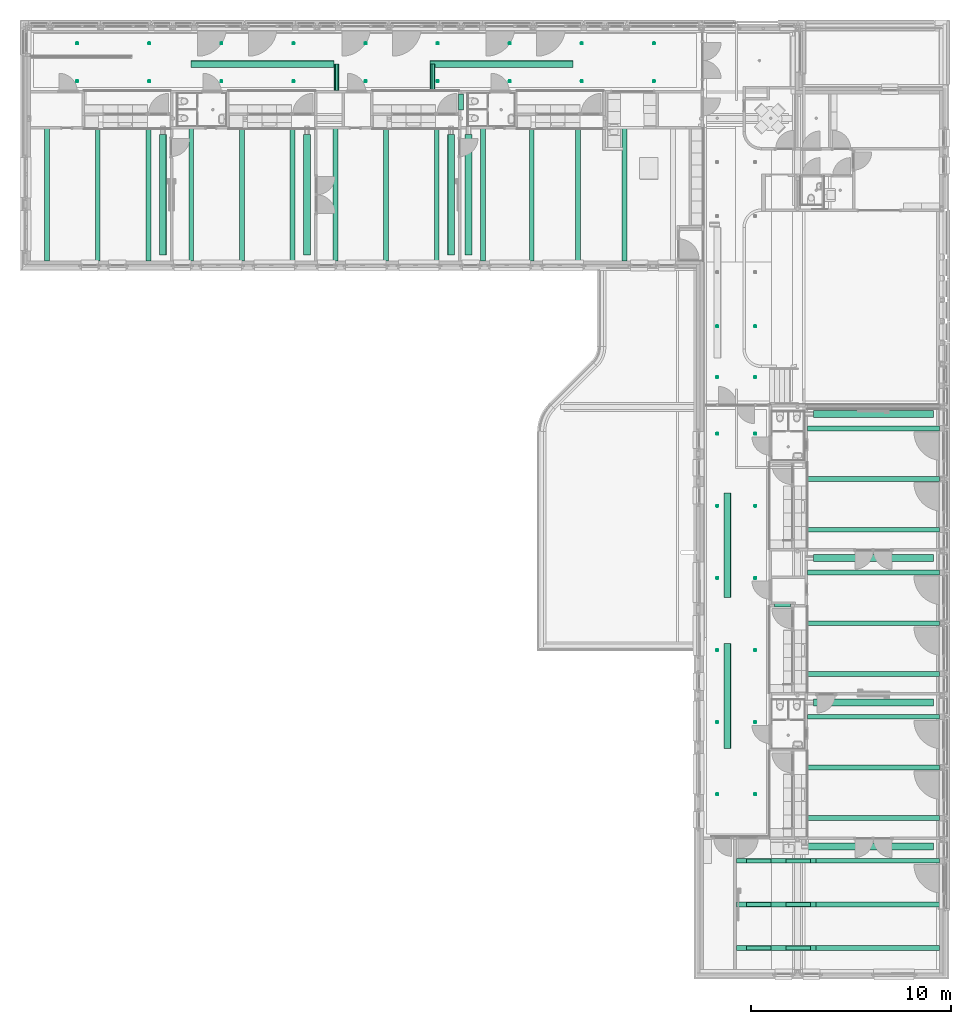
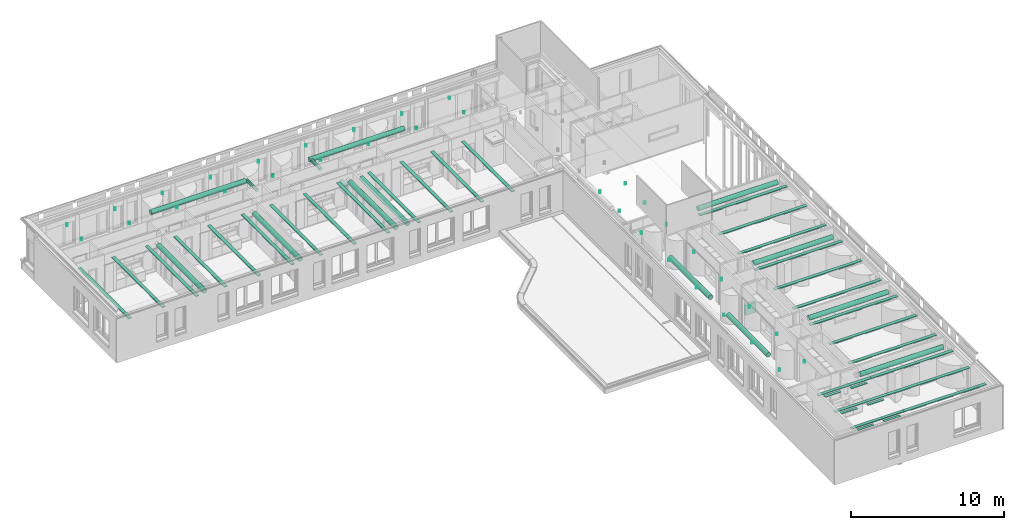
# One storey, part 76 of 128: 53 flow terminals, 14 distribution control elements.
"""IFC2X3 building model written with IfcOpenShell, lengths in millimetres."""

from ifc_helpers import new_model, entity, si_unit, converted_unit, derived_unit, direction, frame, frame_2d, origin, origin_2d_with_axis, place, context, subcontext, project, spatial, rectangle, circle, extrude, source, transform, mapped, material, type_object, type_shapes, element, save


model = new_model("IFC2X3")

# Units and contexts
model_context = context("Model", 3, precision=0.01, world=origin(), true_north=direction((6.123031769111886e-17, 1.0)))
body_context = subcontext(model_context, "Body", "Model", "MODEL_VIEW")
ifc_project = project(units=[si_unit("LENGTHUNIT", "METRE", prefix="MILLI"), si_unit("AREAUNIT", "SQUARE_METRE"), si_unit("VOLUMEUNIT", "CUBIC_METRE"), converted_unit("PLANEANGLEUNIT", "DEGREE", entity("IfcRatioMeasure", 0.017453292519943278), si_unit("PLANEANGLEUNIT", "RADIAN"), dimensions=[0, 0, 0, 0, 0, 0, 0]), si_unit("MASSUNIT", "GRAM", prefix="KILO"), derived_unit("MASSDENSITYUNIT", [(si_unit("MASSUNIT", "GRAM", prefix="KILO"), 1), (si_unit("LENGTHUNIT", "METRE"), -3)]), derived_unit("IONCONCENTRATIONUNIT", [(si_unit("MASSUNIT", "GRAM", prefix="KILO"), 1), (si_unit("LENGTHUNIT", "METRE"), -3)]), derived_unit("MOMENTOFINERTIAUNIT", [(si_unit("LENGTHUNIT", "METRE"), 4)]), si_unit("TIMEUNIT", "SECOND"), si_unit("FREQUENCYUNIT", "HERTZ"), si_unit("THERMODYNAMICTEMPERATUREUNIT", "DEGREE_CELSIUS"), derived_unit("THERMALTRANSMITTANCEUNIT", [(si_unit("MASSUNIT", "GRAM", prefix="KILO"), 1), (si_unit("THERMODYNAMICTEMPERATUREUNIT", "KELVIN"), -1), (si_unit("TIMEUNIT", "SECOND"), -3)]), derived_unit("THERMALCONDUCTANCEUNIT", [(si_unit("MASSUNIT", "GRAM", prefix="KILO"), 1), (si_unit("THERMODYNAMICTEMPERATUREUNIT", "KELVIN"), -1), (si_unit("TIMEUNIT", "SECOND"), -3), (si_unit("LENGTHUNIT", "METRE"), 1)]), derived_unit("VOLUMETRICFLOWRATEUNIT", [(si_unit("LENGTHUNIT", "METRE"), 3), (si_unit("TIMEUNIT", "SECOND"), -1)]), derived_unit("MASSFLOWRATEUNIT", [(si_unit("MASSUNIT", "GRAM", prefix="KILO"), 1), (si_unit("TIMEUNIT", "SECOND"), -1)]), derived_unit("ROTATIONALFREQUENCYUNIT", [(si_unit("TIMEUNIT", "SECOND"), -1)]), si_unit("ELECTRICCURRENTUNIT", "AMPERE"), si_unit("ELECTRICVOLTAGEUNIT", "VOLT"), si_unit("POWERUNIT", "WATT"), si_unit("FORCEUNIT", "NEWTON", prefix="KILO"), si_unit("ILLUMINANCEUNIT", "LUX"), si_unit("LUMINOUSFLUXUNIT", "LUMEN"), si_unit("LUMINOUSINTENSITYUNIT", "CANDELA"), derived_unit("USERDEFINED", [(si_unit("MASSUNIT", "GRAM", prefix="KILO"), -1), (si_unit("LENGTHUNIT", "METRE"), -2), (si_unit("TIMEUNIT", "SECOND"), 3), (si_unit("LUMINOUSFLUXUNIT", "LUMEN"), 1)]), derived_unit("USERDEFINED", [(si_unit("MASSUNIT", "GRAM", prefix="KILO"), 1), (si_unit("TIMEUNIT", "SECOND"), -3), (si_unit("LENGTHUNIT", "METRE"), 3), (si_unit("ELECTRICCURRENTUNIT", "AMPERE"), -2)]), derived_unit("SOUNDPOWERUNIT", [(si_unit("MASSUNIT", "GRAM", prefix="KILO"), 1), (si_unit("TIMEUNIT", "SECOND"), -3), (si_unit("LENGTHUNIT", "METRE"), 2)]), derived_unit("SOUNDPRESSUREUNIT", [(si_unit("MASSUNIT", "GRAM", prefix="KILO"), 1), (si_unit("LENGTHUNIT", "METRE"), -1), (si_unit("TIMEUNIT", "SECOND"), -2)]), derived_unit("LINEARVELOCITYUNIT", [(si_unit("LENGTHUNIT", "METRE"), 1), (si_unit("TIMEUNIT", "SECOND"), -1)]), si_unit("PRESSUREUNIT", "PASCAL"), derived_unit("USERDEFINED", [(si_unit("MASSUNIT", "GRAM", prefix="KILO"), 1), (si_unit("LENGTHUNIT", "METRE"), -2), (si_unit("TIMEUNIT", "SECOND"), -2)]), derived_unit("LINEARFORCEUNIT", [(si_unit("MASSUNIT", "GRAM", prefix="KILO"), 1), (si_unit("TIMEUNIT", "SECOND"), -2)]), derived_unit("PLANARFORCEUNIT", [(si_unit("MASSUNIT", "GRAM", prefix="KILO"), 1), (si_unit("LENGTHUNIT", "METRE"), -1), (si_unit("TIMEUNIT", "SECOND"), -2)]), derived_unit("SPECIFICHEATCAPACITYUNIT", [(si_unit("THERMODYNAMICTEMPERATUREUNIT", "KELVIN"), -1), (si_unit("LENGTHUNIT", "METRE"), 2), (si_unit("TIMEUNIT", "SECOND"), -2)]), derived_unit("HEATINGVALUEUNIT", [(si_unit("LENGTHUNIT", "METRE"), 2), (si_unit("TIMEUNIT", "SECOND"), -2)]), derived_unit("VAPORPERMEABILITYUNIT", [(si_unit("LENGTHUNIT", "METRE"), -1), (si_unit("TIMEUNIT", "SECOND"), 1)]), derived_unit("DYNAMICVISCOSITYUNIT", [(si_unit("MASSUNIT", "GRAM", prefix="KILO"), 1), (si_unit("TIMEUNIT", "SECOND"), -1), (si_unit("LENGTHUNIT", "METRE"), -1)]), derived_unit("THERMALEXPANSIONCOEFFICIENTUNIT", [(si_unit("THERMODYNAMICTEMPERATUREUNIT", "KELVIN"), -1)]), derived_unit("MODULUSOFELASTICITYUNIT", [(si_unit("MASSUNIT", "GRAM", prefix="KILO"), 1), (si_unit("LENGTHUNIT", "METRE"), -1), (si_unit("TIMEUNIT", "SECOND"), -2)]), derived_unit("ISOTHERMALMOISTURECAPACITYUNIT", [(si_unit("LENGTHUNIT", "METRE"), 3), (si_unit("MASSUNIT", "GRAM", prefix="KILO"), -1)]), derived_unit("MOISTUREDIFFUSIVITYUNIT", [(si_unit("TIMEUNIT", "SECOND"), -1), (si_unit("LENGTHUNIT", "METRE"), 2)])], contexts=[model_context])

# Site, building, storey
site_placement = place(None, frame((0.0, 300.0, 0.0)))
site = spatial("IfcSite", under=ifc_project, at=site_placement, Name="<Kadastrale nummers>", CompositionType="ELEMENT")
building_placement = place(site_placement, origin())
building = spatial("IfcBuilding", under=site, at=building_placement, CompositionType="ELEMENT")
storey_placement = place(building_placement, frame((0.0, 0.0, 3560.0000331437)))
storey = spatial("IfcBuildingStorey", under=building, at=storey_placement, Name="01 eerste verdieping", CompositionType="ELEMENT", Elevation=3560.0000331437)

# Distribution control elements
ifc_material_1 = material(Name="<Unnamed>")
controller_type_1 = type_object("IfcControllerType", Name="57_luchtbehandelings buis:Ø 350 op 2945", PredefinedType="NOTDEFINED", material=ifc_material_1)
shared_shape_1 = source(origin(), body_context, "Body", "SweptSolid", [
    extrude(circle(Radius=175.0, at=origin_2d_with_axis()), frame((0.0, 0.0, 2800.0), z_axis=(1.0, 0.0, 0.0), x_axis=(0.0, 1.0, 0.0)), (0.0, 0.0, 1.0), 5997.5000000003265),
])
type_shapes(controller_type_1, [shared_shape_1])
for number, where, z_axis, x_axis in (
    (1, (9705.0, 38500.0, 90.00000187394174), (0.0, 0.0, 1.0), (0.0, 1.0, 0.0)),
    (2, (16905.0, 38500.0, 90.00000187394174), (0.0, 0.0, 1.0), (0.0, 1.0, 0.0)),
    (3, (24105.0, 38500.0, 90.00000187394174), (0.0, 0.0, 1.0), (0.0, 1.0, 0.0)),
    (4, (48200.0, 30550.0, 90.0000018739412), (0.0, 0.0, 1.0), (-1.0, 0.0, 0.0)),
    (5, (48200.0, 23349.998623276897, 90.0000018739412), (0.0, 0.0, 1.0), (-1.0, 0.0, 0.0)),
    (6, (48200.0, 16149.998623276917, 90.0000018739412), (0.0, 0.0, 1.0), (-1.0, 0.0, 0.0)),
):
    element("IfcDistributionControlElement", number, at=place(storey_placement, frame(where, z_axis=z_axis, x_axis=x_axis)), inside=storey, type_object=controller_type_1, material=ifc_material_1, Name="57_luchtbehandelings buis:Ø 350 op 2945", ObjectType="57_luchtbehandelings buis:Ø 350 op 2945", context=body_context, shape_type="MappedRepresentation", body=[
        mapped(shared_shape_1, transform((0.0, 0.0, 0.0), scale=1.0)),
    ])
controller_type_2 = type_object("IfcControllerType", Name="57_luchtbehandelings buis:Ø 350 op 2945", PredefinedType="NOTDEFINED", material=ifc_material_1)
shared_shape_2 = source(origin(), body_context, "Body", "SweptSolid", [
    extrude(circle(Radius=175.0, at=origin_2d_with_axis()), frame((0.0, 0.0, 2800.0), z_axis=(1.0, 0.0, 0.0), x_axis=(0.0, 1.0, 0.0)), (0.0, 0.0, 1.0), 6268.780356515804),
])
type_shapes(controller_type_2, [shared_shape_2])
distribution_control_element_1_placement = place(storey_placement, frame((48200.0, 8949.998623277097, 90.0000018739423), z_axis=(0.0, 0.0, 1.0), x_axis=(-1.0, 0.0, 0.0)))
element("IfcDistributionControlElement", 7, at=distribution_control_element_1_placement, inside=storey, type_object=controller_type_2, material=ifc_material_1, Name="57_luchtbehandelings buis:Ø 350 op 2945", ObjectType="57_luchtbehandelings buis:Ø 350 op 2945", context=body_context, shape_type="MappedRepresentation", body=[
    mapped(shared_shape_2, transform((0.0, 0.0, 0.0), scale=1.0)),
])

# Flow terminals
light_fixture_type_1 = type_object("IfcLightFixtureType", Name="63_DAT_TL Bak met kabelgoot:63_DAT_TL Bak met kabelgoot", PredefinedType="NOTDEFINED", material=ifc_material_1)
shared_shape_3 = source(origin(), body_context, "Body", "SweptSolid", [
    extrude(rectangle(XDim=1220.000000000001, YDim=199.9999999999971, at=origin_2d_with_axis()), frame((3298.750000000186, 0.0, 2750.0), z_axis=(0.0, 0.0, 1.0), x_axis=(-1.0, 0.0, 0.0)), (0.0, 0.0, 1.0), 49.99999999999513),
    extrude(rectangle(XDim=1220.000000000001, YDim=199.9999999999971, at=frame_2d((-5.684341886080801e-13, 0.0), x_axis=(1.0, 0.0))), frame((5487.50000000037, 0.0, 2750.0), z_axis=(0.0, 0.0, 1.0), x_axis=(-1.0, 0.0, 0.0)), (0.0, 0.0, 1.0), 49.99999999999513),
    extrude(rectangle(XDim=1220.0000000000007, YDim=199.9999999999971, at=frame_2d((1.1368683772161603e-13, 0.0), x_axis=(1.0, 0.0))), frame((1110.0, 0.0, 2750.0), z_axis=(0.0, 0.0, 1.0), x_axis=(-1.0, 0.0, 0.0)), (0.0, 0.0, 1.0), 49.99999999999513),
    extrude(rectangle(XDim=6597.500000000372, YDim=239.99999999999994, at=origin_2d_with_axis()), frame((3298.750000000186, 0.0, 2800.0), z_axis=(0.0, 0.0, 1.0), x_axis=(-1.0, 0.0, 0.0)), (0.0, 0.0, 1.0), 50.3008697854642),
])
type_shapes(light_fixture_type_1, [shared_shape_3])
for number, where, z_axis, x_axis, name in (
    (8, (6455.001376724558, 44797.50000000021, 90.00000187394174), (0.0, 0.0, 1.0), (0.0, -1.0, 0.0), "63_DAT_TL Bak met kabelgoot:63_DAT_TL Bak met kabelgoot"),
    (9, (3925.0013767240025, 44797.50000000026, 90.00000187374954), (0.0, 0.0, 1.0), (0.0, -1.0, 0.0), "63_DAT_TL Bak met kabelgoot:63_DAT_TL Bak met kabelgoot"),
    (10, (13655.00137672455, 44797.500000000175, 90.00000187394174), (0.0, 0.0, 1.0), (0.0, -1.0, 0.0), "63_DAT_TL Bak met kabelgoot:63_DAT_TL Bak met kabelgoot"),
    (11, (11125.001376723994, 44797.50000000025, 90.00000187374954), (0.0, 0.0, 1.0), (0.0, -1.0, 0.0), "63_DAT_TL Bak met kabelgoot:63_DAT_TL Bak met kabelgoot"),
    (12, (20855.00137672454, 44797.500000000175, 90.00000187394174), (0.0, 0.0, 1.0), (0.0, -1.0, 0.0), "63_DAT_TL Bak met kabelgoot:63_DAT_TL Bak met kabelgoot"),
    (13, (18325.001376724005, 44797.50000000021, 90.00000187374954), (0.0, 0.0, 1.0), (0.0, -1.0, 0.0), "63_DAT_TL Bak met kabelgoot:63_DAT_TL Bak met kabelgoot"),
    (14, (32757.49862327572, 44797.499999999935, 90.00000187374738), (0.0, 0.0, 1.0), (0.0, -1.0, 0.0), "63_DAT_TL Bak met kabelgoot:63_DAT_TL Bak met kabelgoot"),
):
    element("IfcFlowTerminal", number, at=place(storey_placement, frame(where, z_axis=z_axis, x_axis=x_axis)), inside=storey, type_object=light_fixture_type_1, material=ifc_material_1, Name=name, ObjectType="63_DAT_TL Bak met kabelgoot:63_DAT_TL Bak met kabelgoot", context=body_context, shape_type="MappedRepresentation", body=[
        mapped(shared_shape_3, transform((0.0, 0.0, 0.0), scale=1.0)),
    ])
for number, where, name in (
    (15, (41902.49999999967, 27300.00137672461, 90.00000187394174), "63_DAT_TL Bak met kabelgoot:63_DAT_TL Bak met kabelgoot"),
    (16, (41902.49999999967, 24770.00137672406, 90.00000187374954), "63_DAT_TL Bak met kabelgoot:63_DAT_TL Bak met kabelgoot"),
    (17, (41902.499999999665, 20100.0, 90.00000187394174), "63_DAT_TL Bak met kabelgoot:63_DAT_TL Bak met kabelgoot"),
    (18, (41902.499999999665, 17570.0, 90.00000187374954), "63_DAT_TL Bak met kabelgoot:63_DAT_TL Bak met kabelgoot"),
    (19, (41902.49999999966, 12900.0, 90.00000187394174), "63_DAT_TL Bak met kabelgoot:63_DAT_TL Bak met kabelgoot"),
    (20, (41902.49999999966, 10370.0, 90.00000187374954), "63_DAT_TL Bak met kabelgoot:63_DAT_TL Bak met kabelgoot"),
):
    element("IfcFlowTerminal", number, at=place(storey_placement, frame(where)), inside=storey, type_object=light_fixture_type_1, material=ifc_material_1, Name=name, ObjectType="63_DAT_TL Bak met kabelgoot:63_DAT_TL Bak met kabelgoot", context=body_context, shape_type="MappedRepresentation", body=[
        mapped(shared_shape_3, transform((0.0, 0.0, 0.0), scale=1.0)),
    ])
flow_terminal_1_placement = place(storey_placement, frame((25699.998623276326, 44797.50000000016, 90.00000187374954), z_axis=(0.0, 0.0, 1.0), x_axis=(0.0, -1.0, 0.0)))
element("IfcFlowTerminal", 21, at=flow_terminal_1_placement, inside=storey, type_object=light_fixture_type_1, material=ifc_material_1, Name="63_DAT_TL Bak met kabelgoot:63_DAT_TL Bak met kabelgoot", ObjectType="63_DAT_TL Bak met kabelgoot:63_DAT_TL Bak met kabelgoot", context=body_context, shape_type="MappedRepresentation", body=[
    mapped(shared_shape_3, transform((0.0, 0.0, 0.0), scale=1.0)),
])
light_fixture_type_2 = type_object("IfcLightFixtureType", Name="63_DAT_TL Bak met kabelgoot:63_DAT_TL Bak met kabelgoot", PredefinedType="NOTDEFINED", material=ifc_material_1)
shared_shape_4 = source(origin(), body_context, "Body", "SweptSolid", [
    extrude(rectangle(XDim=199.9999999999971, YDim=1220.000000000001, at=origin_2d_with_axis()), frame((3092.5000000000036, 0.0, 2750.0), z_axis=(0.0, 0.0, 1.0), x_axis=(0.0, 1.0, 0.0)), (0.0, 0.0, 1.0), 49.99999999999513),
    extrude(rectangle(XDim=199.9999999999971, YDim=1220.000000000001, at=frame_2d((0.0, -5.684341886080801e-13), x_axis=(1.0, 0.0))), frame((5075.0, 0.0, 2750.0), z_axis=(0.0, 0.0, 1.0), x_axis=(0.0, 1.0, 0.0)), (0.0, 0.0, 1.0), 49.99999999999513),
    extrude(rectangle(XDim=199.9999999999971, YDim=1220.0000000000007, at=origin_2d_with_axis()), frame((1110.0, 0.0, 2750.0), z_axis=(0.0, 0.0, 1.0), x_axis=(0.0, 1.0, 0.0)), (0.0, 0.0, 1.0), 49.99999999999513),
    extrude(rectangle(XDim=239.99999999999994, YDim=6185.000000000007, at=origin_2d_with_axis()), frame((3092.5000000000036, 0.0, 2800.0), z_axis=(0.0, 0.0, 1.0), x_axis=(0.0, 1.0, 0.0)), (0.0, 0.0, 1.0), 50.3008697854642),
])
type_shapes(light_fixture_type_2, [shared_shape_4])
for number, where, name in (
    (22, (42315.0, 8237.498623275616, 90.0000018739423), "63_DAT_TL Bak met kabelgoot:63_DAT_TL Bak met kabelgoot"),
    (23, (42315.0, 6062.498623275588, 90.0000018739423), "63_DAT_TL Bak met kabelgoot:63_DAT_TL Bak met kabelgoot"),
):
    element("IfcFlowTerminal", number, at=place(storey_placement, frame(where)), inside=storey, type_object=light_fixture_type_2, material=ifc_material_1, Name=name, ObjectType="63_DAT_TL Bak met kabelgoot:63_DAT_TL Bak met kabelgoot", context=body_context, shape_type="MappedRepresentation", body=[
        mapped(shared_shape_4, transform((0.0, 0.0, 0.0), scale=1.0)),
    ])
light_fixture_type_3 = type_object("IfcLightFixtureType", Name="63_DAT_TL Bak met kabelgoot:Kabelgoot", PredefinedType="NOTDEFINED", material=ifc_material_1)
shared_shape_5 = source(origin(), body_context, "Body", "SweptSolid", [
    extrude(rectangle(XDim=3965.000000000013, YDim=239.99999999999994, at=origin_2d_with_axis()), frame((1982.5000000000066, 0.0, 2800.0), z_axis=(0.0, 0.0, 1.0), x_axis=(-1.0, 0.0, 0.0)), (0.0, 0.0, 1.0), 50.3008697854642),
])
type_shapes(light_fixture_type_3, [shared_shape_5])
for number, where, name in (
    (24, (38350.0, 8237.49862327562, 90.0000018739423), "63_DAT_TL Bak met kabelgoot:Kabelgoot"),
    (25, (38350.0, 6062.498623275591, 90.0000018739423), "63_DAT_TL Bak met kabelgoot:Kabelgoot"),
):
    element("IfcFlowTerminal", number, at=place(storey_placement, frame(where)), inside=storey, type_object=light_fixture_type_3, material=ifc_material_1, Name=name, ObjectType="63_DAT_TL Bak met kabelgoot:Kabelgoot", context=body_context, shape_type="MappedRepresentation", body=[
        mapped(shared_shape_5, transform((0.0, 0.0, 0.0), scale=1.0)),
    ])

# Space
space_1_placement = place(storey_placement, origin())
space_1 = spatial("IfcSpace", under=storey, at=space_1_placement, Name="1.24", CompositionType="ELEMENT", InteriorOrExteriorSpace="INTERNAL")

# Flow terminals
light_fixture_type_4 = type_object("IfcLightFixtureType", Name="63_DAT_TL Bak:63_DAT_TL Bak", PredefinedType="NOTDEFINED", material=ifc_material_1)
shared_shape_6 = source(origin(), body_context, "Body", "SweptSolid", [
    extrude(rectangle(XDim=1220.0000000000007, YDim=199.9999999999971, at=origin_2d_with_axis()), frame((610.0, 100.0, 0.0), z_axis=(0.0, 0.0, 1.0), x_axis=(-1.0, 0.0, 0.0)), (0.0, 0.0, 1.0), 49.99999999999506),
])
type_shapes(light_fixture_type_4, [shared_shape_6])
for number, where, name in (
    (26, (38850.0, 8137.49862327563, 2592.336453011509), "63_DAT_TL Bak:63_DAT_TL Bak"),
    (27, (40832.500000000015, 8137.498623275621, 2592.336453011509), "63_DAT_TL Bak:63_DAT_TL Bak"),
    (28, (38850.0, 5962.498623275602, 2592.336453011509), "63_DAT_TL Bak:63_DAT_TL Bak"),
    (29, (40832.500000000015, 5962.498623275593, 2592.336453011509), "63_DAT_TL Bak:63_DAT_TL Bak"),
):
    element("IfcFlowTerminal", number, at=place(space_1_placement, frame(where)), inside=space_1, type_object=light_fixture_type_4, material=ifc_material_1, Name=name, ObjectType="63_DAT_TL Bak:63_DAT_TL Bak", context=body_context, shape_type="MappedRepresentation", body=[
        mapped(shared_shape_6, transform((0.0, 0.0, 0.0), scale=1.0)),
    ])
light_fixture_type_5 = type_object("IfcLightFixtureType", Name="63_DAT_Spotverlichting layout:2 Spots", PredefinedType="NOTDEFINED", material=ifc_material_1)
shared_shape_7 = source(origin(), body_context, "Body", "SweptSolid", [
    extrude(circle(Radius=50.0, at=frame_2d((0.0, -8.077722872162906e-14), x_axis=(1.0, 0.0))), frame((2592.5000000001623, 0.0, 3090.0)), (0.0, 0.0, 1.0), 150.00000000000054),
    extrude(circle(Radius=50.0, at=frame_2d((0.0, -8.077722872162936e-14), x_axis=(1.0, 0.0))), frame((700.0, 0.0, 3090.0)), (0.0, 0.0, 1.0), 150.0),
])
type_shapes(light_fixture_type_5, [shared_shape_7])
for number, where, z_axis, x_axis, name in (
    (30, (9037.499311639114, 49752.4851432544, 90.00000187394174), (0.0, 0.0, 1.0), (0.0, -1.0, 0.0), "63_DAT_Spotverlichting layout:2 Spots"),
    (31, (30637.499311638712, 49752.485143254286, 90.00000187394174), (0.0, 0.0, 1.0), (0.0, -1.0, 0.0), "63_DAT_Spotverlichting layout:2 Spots"),
    (32, (34237.49931163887, 49752.48514325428, 90.00000187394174), (0.0, 0.0, 1.0), (0.0, -1.0, 0.0), "63_DAT_Spotverlichting layout:2 Spots"),
):
    element("IfcFlowTerminal", number, at=place(storey_placement, frame(where, z_axis=z_axis, x_axis=x_axis)), inside=storey, type_object=light_fixture_type_5, material=ifc_material_1, Name=name, ObjectType="63_DAT_Spotverlichting layout:2 Spots", context=body_context, shape_type="MappedRepresentation", body=[
        mapped(shared_shape_7, transform((0.0, 0.0, 0.0), scale=1.0)),
    ])
for number, where, name in (
    (33, (36700.0, 29554.997934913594, 90.00000187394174), "63_DAT_Spotverlichting layout:2 Spots"),
    (34, (36700.0, 34922.30819706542, 90.00000187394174), "63_DAT_Spotverlichting layout:2 Spots"),
    (35, (36700.0, 32382.30819706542, 90.00000187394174), "63_DAT_Spotverlichting layout:2 Spots"),
    (36, (36700.0, 11554.997934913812, 90.0000018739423), "63_DAT_Spotverlichting layout:2 Spots"),
    (37, (36700.0, 18754.997934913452, 90.0000018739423), "63_DAT_Spotverlichting layout:2 Spots"),
    (38, (36700.0, 15154.99793491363, 90.0000018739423), "63_DAT_Spotverlichting layout:2 Spots"),
    (39, (36700.0, 25954.997934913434, 90.0000018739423), "63_DAT_Spotverlichting layout:2 Spots"),
    (40, (36700.0, 22354.99793491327, 90.0000018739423), "63_DAT_Spotverlichting layout:2 Spots"),
):
    element("IfcFlowTerminal", number, at=place(storey_placement, frame(where)), inside=storey, type_object=light_fixture_type_5, material=ifc_material_1, Name=name, ObjectType="63_DAT_Spotverlichting layout:2 Spots", context=body_context, shape_type="MappedRepresentation", body=[
        mapped(shared_shape_7, transform((0.0, 0.0, 0.0), scale=1.0)),
    ])
for number, where, z_axis, x_axis, name in (
    (41, (12637.499311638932, 49752.485143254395, 90.0000018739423), (0.0, 0.0, 1.0), (0.0, -1.0, 0.0), "63_DAT_Spotverlichting layout:2 Spots"),
    (42, (19837.499311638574, 49752.485143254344, 90.0000018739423), (0.0, 0.0, 1.0), (0.0, -1.0, 0.0), "63_DAT_Spotverlichting layout:2 Spots"),
    (43, (16237.499311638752, 49752.48514325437, 90.0000018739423), (0.0, 0.0, 1.0), (0.0, -1.0, 0.0), "63_DAT_Spotverlichting layout:2 Spots"),
    (44, (27037.499311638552, 49752.48514325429, 90.0000018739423), (0.0, 0.0, 1.0), (0.0, -1.0, 0.0), "63_DAT_Spotverlichting layout:2 Spots"),
    (45, (23437.499311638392, 49752.48514325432, 90.0000018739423), (0.0, 0.0, 1.0), (0.0, -1.0, 0.0), "63_DAT_Spotverlichting layout:2 Spots"),
):
    element("IfcFlowTerminal", number, at=place(storey_placement, frame(where, z_axis=z_axis, x_axis=x_axis)), inside=storey, type_object=light_fixture_type_5, material=ifc_material_1, Name=name, ObjectType="63_DAT_Spotverlichting layout:2 Spots", context=body_context, shape_type="MappedRepresentation", body=[
        mapped(shared_shape_7, transform((0.0, 0.0, 0.0), scale=1.0)),
    ])
light_fixture_type_6 = type_object("IfcLightFixtureType", Name="63_DAT_TL Bak met kabelgoot:63_DAT_TL Bak met kabelgoot", PredefinedType="NOTDEFINED", material=ifc_material_1)
shared_shape_8 = source(origin(), body_context, "Body", "SweptSolid", [
    extrude(rectangle(XDim=1220.000000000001, YDim=199.9999999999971, at=origin_2d_with_axis()), frame((3092.5000000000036, 0.0, 2750.0), z_axis=(0.0, 0.0, 1.0), x_axis=(-1.0, 0.0, 0.0)), (0.0, 0.0, 1.0), 49.99999999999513),
    extrude(rectangle(XDim=1220.000000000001, YDim=199.9999999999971, at=frame_2d((-5.684341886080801e-13, 0.0), x_axis=(1.0, 0.0))), frame((5075.0, 0.0, 2750.0), z_axis=(0.0, 0.0, 1.0), x_axis=(-1.0, 0.0, 0.0)), (0.0, 0.0, 1.0), 49.99999999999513),
    extrude(rectangle(XDim=1220.0000000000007, YDim=199.9999999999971, at=frame_2d((1.1368683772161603e-13, 0.0), x_axis=(1.0, 0.0))), frame((1110.0, 0.0, 2750.0), z_axis=(0.0, 0.0, 1.0), x_axis=(-1.0, 0.0, 0.0)), (0.0, 0.0, 1.0), 49.99999999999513),
    extrude(rectangle(XDim=6185.000000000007, YDim=239.99999999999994, at=origin_2d_with_axis()), frame((3092.5000000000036, 0.0, 2800.0), z_axis=(0.0, 0.0, 1.0), x_axis=(-1.0, 0.0, 0.0)), (0.0, 0.0, 1.0), 50.3008697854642),
])
type_shapes(light_fixture_type_6, [shared_shape_8])
flow_terminal_2_placement = place(storey_placement, frame((42315.0, 3887.498623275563, 90.0000018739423)))
element("IfcFlowTerminal", 46, at=flow_terminal_2_placement, inside=storey, type_object=light_fixture_type_6, material=ifc_material_1, Name="63_DAT_TL Bak met kabelgoot:63_DAT_TL Bak met kabelgoot", ObjectType="63_DAT_TL Bak met kabelgoot:63_DAT_TL Bak met kabelgoot", context=body_context, shape_type="MappedRepresentation", body=[
    mapped(shared_shape_8, transform((0.0, 0.0, 0.0), scale=1.0)),
])
light_fixture_type_7 = type_object("IfcLightFixtureType", Name="63_DAT_TL Bak met kabelgoot:Kabelgoot", PredefinedType="NOTDEFINED", material=ifc_material_1)
shared_shape_9 = source(origin(), body_context, "Body", "SweptSolid", [
    extrude(rectangle(XDim=239.99999999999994, YDim=3965.000000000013, at=origin_2d_with_axis()), frame((1982.5000000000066, 0.0, 2800.0), z_axis=(0.0, 0.0, 1.0), x_axis=(0.0, 1.0, 0.0)), (0.0, 0.0, 1.0), 50.3008697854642),
])
type_shapes(light_fixture_type_7, [shared_shape_9])
flow_terminal_3_placement = place(storey_placement, frame((38350.0, 3887.498623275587, 90.0000018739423)))
element("IfcFlowTerminal", 47, at=flow_terminal_3_placement, inside=storey, type_object=light_fixture_type_7, material=ifc_material_1, Name="63_DAT_TL Bak met kabelgoot:Kabelgoot", ObjectType="63_DAT_TL Bak met kabelgoot:Kabelgoot", context=body_context, shape_type="MappedRepresentation", body=[
    mapped(shared_shape_9, transform((0.0, 0.0, 0.0), scale=1.0)),
])
light_fixture_type_8 = type_object("IfcLightFixtureType", Name="63_DAT_TL Bak:63_DAT_TL Bak", PredefinedType="NOTDEFINED", material=ifc_material_1)
shared_shape_10 = source(origin(), body_context, "Body", "SweptSolid", [
    extrude(rectangle(XDim=199.9999999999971, YDim=1220.0000000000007, at=origin_2d_with_axis()), frame((610.0, -100.0, 0.0), z_axis=(0.0, 0.0, 1.0), x_axis=(0.0, 1.0, 0.0)), (0.0, 0.0, 1.0), 49.99999999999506),
])
type_shapes(light_fixture_type_8, [shared_shape_10])
for number, where, name in (
    (48, (38850.0, 3987.4986232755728, 2592.336453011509), "63_DAT_TL Bak:63_DAT_TL Bak"),
    (49, (40832.49999999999, 3987.4986232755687, 2592.336453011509), "63_DAT_TL Bak:63_DAT_TL Bak"),
):
    element("IfcFlowTerminal", number, at=place(space_1_placement, frame(where)), inside=space_1, type_object=light_fixture_type_8, material=ifc_material_1, Name=name, ObjectType="63_DAT_TL Bak:63_DAT_TL Bak", context=body_context, shape_type="MappedRepresentation", body=[
        mapped(shared_shape_10, transform((0.0, 0.0, 0.0), scale=1.0)),
    ])
light_fixture_type_9 = type_object("IfcLightFixtureType", Name="63_DAT_TL Bak met kabelgoot:63_DAT_TL Bak met kabelgoot", PredefinedType="NOTDEFINED", material=ifc_material_1)
shared_shape_11 = source(origin(), body_context, "Body", "SweptSolid", [
    extrude(rectangle(XDim=199.9999999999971, YDim=1220.000000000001, at=origin_2d_with_axis()), frame((3298.750000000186, 0.0, 2750.0), z_axis=(0.0, 0.0, 1.0), x_axis=(0.0, 1.0, 0.0)), (0.0, 0.0, 1.0), 49.99999999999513),
    extrude(rectangle(XDim=199.9999999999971, YDim=1220.000000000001, at=frame_2d((0.0, -5.684341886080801e-13), x_axis=(1.0, 0.0))), frame((5487.50000000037, 0.0, 2750.0), z_axis=(0.0, 0.0, 1.0), x_axis=(0.0, 1.0, 0.0)), (0.0, 0.0, 1.0), 49.99999999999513),
    extrude(rectangle(XDim=199.9999999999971, YDim=1220.0000000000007, at=origin_2d_with_axis()), frame((1110.0, 0.0, 2750.0), z_axis=(0.0, 0.0, 1.0), x_axis=(0.0, 1.0, 0.0)), (0.0, 0.0, 1.0), 49.99999999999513),
    extrude(rectangle(XDim=239.99999999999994, YDim=6597.500000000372, at=origin_2d_with_axis()), frame((3298.750000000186, 0.0, 2800.0), z_axis=(0.0, 0.0, 1.0), x_axis=(0.0, 1.0, 0.0)), (0.0, 0.0, 1.0), 50.3008697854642),
])
type_shapes(light_fixture_type_9, [shared_shape_11])
for number, where, z_axis, x_axis, name in (
    (50, (8985.001376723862, 44797.50000000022, 90.00000187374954), (0.0, 0.0, 1.0), (0.0, -1.0, 0.0), "63_DAT_TL Bak met kabelgoot:63_DAT_TL Bak met kabelgoot"),
    (51, (16185.001376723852, 44797.500000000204, 90.00000187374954), (0.0, 0.0, 1.0), (0.0, -1.0, 0.0), "63_DAT_TL Bak met kabelgoot:63_DAT_TL Bak met kabelgoot"),
    (52, (23385.001376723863, 44797.50000000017, 90.00000187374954), (0.0, 0.0, 1.0), (0.0, -1.0, 0.0), "63_DAT_TL Bak met kabelgoot:63_DAT_TL Bak met kabelgoot"),
):
    element("IfcFlowTerminal", number, at=place(storey_placement, frame(where, z_axis=z_axis, x_axis=x_axis)), inside=storey, type_object=light_fixture_type_9, material=ifc_material_1, Name=name, ObjectType="63_DAT_TL Bak met kabelgoot:63_DAT_TL Bak met kabelgoot", context=body_context, shape_type="MappedRepresentation", body=[
        mapped(shared_shape_11, transform((0.0, 0.0, 0.0), scale=1.0)),
    ])
for number, where, name in (
    (53, (41902.499999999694, 29830.001376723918, 90.00000187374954), "63_DAT_TL Bak met kabelgoot:63_DAT_TL Bak met kabelgoot"),
    (54, (41902.49999999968, 22630.0, 90.00000187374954), "63_DAT_TL Bak met kabelgoot:63_DAT_TL Bak met kabelgoot"),
    (55, (41902.49999999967, 15430.0, 90.00000187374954), "63_DAT_TL Bak met kabelgoot:63_DAT_TL Bak met kabelgoot"),
):
    element("IfcFlowTerminal", number, at=place(storey_placement, frame(where)), inside=storey, type_object=light_fixture_type_9, material=ifc_material_1, Name=name, ObjectType="63_DAT_TL Bak met kabelgoot:63_DAT_TL Bak met kabelgoot", context=body_context, shape_type="MappedRepresentation", body=[
        mapped(shared_shape_11, transform((0.0, 0.0, 0.0), scale=1.0)),
    ])
for number, where, z_axis, x_axis, name in (
    (56, (28132.498623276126, 44797.50000000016, 90.00000187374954), (0.0, 0.0, 1.0), (0.0, -1.0, 0.0), "63_DAT_TL Bak met kabelgoot:63_DAT_TL Bak met kabelgoot"),
    (57, (30444.99862327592, 44797.500000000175, 90.00000187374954), (0.0, 0.0, 1.0), (0.0, -1.0, 0.0), "63_DAT_TL Bak met kabelgoot:63_DAT_TL Bak met kabelgoot"),
):
    element("IfcFlowTerminal", number, at=place(storey_placement, frame(where, z_axis=z_axis, x_axis=x_axis)), inside=storey, type_object=light_fixture_type_9, material=ifc_material_1, Name=name, ObjectType="63_DAT_TL Bak met kabelgoot:63_DAT_TL Bak met kabelgoot", context=body_context, shape_type="MappedRepresentation", body=[
        mapped(shared_shape_11, transform((0.0, 0.0, 0.0), scale=1.0)),
    ])
light_fixture_type_10 = type_object("IfcLightFixtureType", Name="63_DAT_Spotverlichting layout:2 Spots 2", PredefinedType="NOTDEFINED", material=ifc_material_1)
shared_shape_12 = source(origin(), body_context, "Body", "SweptSolid", [
    extrude(circle(Radius=50.0, at=frame_2d((0.0, -8.077722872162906e-14), x_axis=(1.0, 0.0))), frame((2592.5000000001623, 0.0, 3090.0)), (0.0, 0.0, 1.0), 150.00000000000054),
    extrude(circle(Radius=50.0, at=frame_2d((0.0, -8.077722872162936e-14), x_axis=(1.0, 0.0))), frame((700.0, 0.0, 3090.0)), (0.0, 0.0, 1.0), 150.0),
])
type_shapes(light_fixture_type_10, [shared_shape_12])
flow_terminal_4_placement = place(storey_placement, frame((5437.499311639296, 49752.48514325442, 90.00000187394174), z_axis=(0.0, 0.0, 1.0), x_axis=(0.0, -1.0, 0.0)))
element("IfcFlowTerminal", 58, at=flow_terminal_4_placement, inside=storey, type_object=light_fixture_type_10, material=ifc_material_1, Name="63_DAT_Spotverlichting layout:2 Spots 2", ObjectType="63_DAT_Spotverlichting layout:2 Spots 2", context=body_context, shape_type="MappedRepresentation", body=[
    mapped(shared_shape_12, transform((0.0, 0.0, 0.0), scale=1.0)),
])

# Space
space_2_placement = place(storey_placement, origin())
space_2 = spatial("IfcSpace", under=storey, at=space_2_placement, Name="1.20", CompositionType="ELEMENT", InteriorOrExteriorSpace="INTERNAL")

# Flow terminal
ifc_material_2 = material(Name="ISR_Kunststof_wit")
fire_suppression_terminal_type_1 = type_object("IfcFireSuppressionTerminalType", Name="NLRS_59_PF_FB_brandslanghaspel inbouw_gen_ISR:haspel slang 30m gen hxdxb 730x240x790", PredefinedType="USERDEFINED", material=ifc_material_2)
shared_shape_13 = source(origin(), body_context, "Body", "SweptSolid", [
    extrude(rectangle(XDim=789.9999999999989, YDim=790.0000000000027, at=frame_2d((5.684341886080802e-14, 0.0), x_axis=(1.0, 0.0))), frame((0.0, 0.0, -240.0), z_axis=(0.0, 0.0, 1.0), x_axis=(-1.0, 0.0, 0.0)), (0.0, 0.0, 1.0), 240.00000000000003),
    extrude(circle(Radius=11.0, at=origin_2d_with_axis()), frame((-335.0, -395.0, -180.0), z_axis=(0.0, 1.0, 0.0), x_axis=(-1.0, 0.0, 0.0)), (0.0, 0.0, 1.0), 0.9999999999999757),
])
type_shapes(fire_suppression_terminal_type_1, [shared_shape_13])
flow_terminal_5_placement = place(space_2_placement, frame((40654.99339828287, 20909.997246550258, 1285.0), z_axis=(0.0, -1.0, 0.0), x_axis=(1.0, 0.0, 0.0)))
element("IfcFlowTerminal", 59, at=flow_terminal_5_placement, inside=space_2, type_object=fire_suppression_terminal_type_1, material=ifc_material_2, Name="NLRS_59_PF_FB_brandslanghaspel inbouw_gen_ISR:haspel slang 30m gen hxdxb 730x240x790", ObjectType="NLRS_59_PF_FB_brandslanghaspel inbouw_gen_ISR:haspel slang 30m gen hxdxb 730x240x790", context=body_context, shape_type="MappedRepresentation", body=[
    mapped(shared_shape_13, transform((0.0, 0.0, 0.0), scale=1.0)),
])

# Space
space_3_placement = place(storey_placement, origin())
space_3 = spatial("IfcSpace", under=storey, at=space_3_placement, Name="1.11", CompositionType="ELEMENT", InteriorOrExteriorSpace="INTERNAL")

# Flow terminal
fire_suppression_terminal_type_2 = type_object("IfcFireSuppressionTerminalType", Name="NLRS_59_PF_FB_brandslanghaspel inbouw_gen_ISR:haspel slang 30m gen hxdxb 730x240x790", PredefinedType="USERDEFINED", material=ifc_material_2)
shared_shape_14 = source(origin(), body_context, "Body", "SweptSolid", [
    extrude(rectangle(XDim=790.0000000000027, YDim=789.9999999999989, at=frame_2d((-2.842170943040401e-14, -2.842170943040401e-14), x_axis=(1.0, 0.0))), frame((0.0, 0.0, -240.0), z_axis=(0.0, 0.0, 1.0), x_axis=(0.0, 1.0, 0.0)), (0.0, 0.0, 1.0), 240.00000000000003),
    extrude(circle(Radius=11.0, at=frame_2d((2.1940588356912e-28, 0.0), x_axis=(1.0, 0.0))), frame((-335.0, 394.0, -180.0), z_axis=(0.0, 1.0, 0.0), x_axis=(-1.0, 0.0, 0.0)), (0.0, 0.0, 1.0), 0.9999999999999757),
])
type_shapes(fire_suppression_terminal_type_2, [shared_shape_14])
flow_terminal_6_placement = place(space_3_placement, frame((24480.0, 46130.0, 1285.0), z_axis=(-1.0, 0.0, 0.0), x_axis=(0.0, 1.0, 0.0)))
element("IfcFlowTerminal", 60, at=flow_terminal_6_placement, inside=space_3, type_object=fire_suppression_terminal_type_2, material=ifc_material_2, Name="NLRS_59_PF_FB_brandslanghaspel inbouw_gen_ISR:haspel slang 30m gen hxdxb 730x240x790", ObjectType="NLRS_59_PF_FB_brandslanghaspel inbouw_gen_ISR:haspel slang 30m gen hxdxb 730x240x790", context=body_context, shape_type="MappedRepresentation", body=[
    mapped(shared_shape_14, transform((0.0, 0.0, 0.0), scale=1.0)),
])

# Distribution control elements
controller_type_3 = type_object("IfcControllerType", Name="57_luchtbehandelings buis:Ø 350 op 2945", PredefinedType="NOTDEFINED", material=ifc_material_1)
shared_shape_15 = source(origin(), body_context, "Body", "SweptSolid", [
    extrude(circle(Radius=175.0, at=frame_2d((0.0, -1.0828671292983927e-12), x_axis=(1.0, 0.0))), frame((0.0, 0.0, 2800.0), z_axis=(1.0, 0.0, 0.0), x_axis=(0.0, -1.0, 0.0)), (0.0, 0.0, 1.0), 5997.5000000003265),
])
type_shapes(controller_type_3, [shared_shape_15])
distribution_control_element_2_placement = place(storey_placement, frame((24980.0, 38500.0, 90.00000187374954), z_axis=(0.0, 0.0, 1.0), x_axis=(0.0, 1.0, 0.0)))
element("IfcDistributionControlElement", 61, at=distribution_control_element_2_placement, inside=storey, type_object=controller_type_3, material=ifc_material_1, Name="57_luchtbehandelings buis:Ø 350 op 2945", ObjectType="57_luchtbehandelings buis:Ø 350 op 2945", context=body_context, shape_type="MappedRepresentation", body=[
    mapped(shared_shape_15, transform((0.0, 0.0, 0.0), scale=1.0)),
])
controller_type_4 = type_object("IfcControllerType", Name="57_luchtbehandelings buis:Ø 350 op 2945", PredefinedType="NOTDEFINED", material=ifc_material_1)
shared_shape_16 = source(origin(), body_context, "Body", "SweptSolid", [
    extrude(circle(Radius=175.0, at=origin_2d_with_axis()), frame((0.0, 0.0, 2800.0), z_axis=(1.0, 0.0, 0.0), x_axis=(0.0, 1.0, 0.0)), (0.0, 0.0, 1.0), 7139.999999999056),
])
type_shapes(controller_type_4, [shared_shape_16])
for number, where, z_axis, x_axis in (
    (62, (18256.58703700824, 48015.634933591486, 90.00000187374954), (0.0, 0.0, 1.0), (-1.0, 0.0, 0.0)),
    (63, (30196.587037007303, 48015.63493359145, 90.00000187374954), (0.0, 0.0, 1.0), (-1.0, 0.0, 0.0)),
):
    element("IfcDistributionControlElement", number, at=place(storey_placement, frame(where, z_axis=z_axis, x_axis=x_axis)), inside=storey, type_object=controller_type_4, material=ifc_material_1, Name="57_luchtbehandelings buis:Ø 350 op 2945", ObjectType="57_luchtbehandelings buis:Ø 350 op 2945", context=body_context, shape_type="MappedRepresentation", body=[
        mapped(shared_shape_16, transform((0.0, 0.0, 0.0), scale=1.0)),
    ])
controller_type_5 = type_object("IfcControllerType", Name="57_luchtbehandelings buis:Ø 250 op 2946", PredefinedType="NOTDEFINED", material=ifc_material_1)
shared_shape_17 = source(origin(), body_context, "Body", "SweptSolid", [
    extrude(circle(Radius=125.00000000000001, at=origin_2d_with_axis()), frame((0.0, 0.0, 2800.0), z_axis=(1.0, 0.0, 0.0), x_axis=(0.0, 1.0, 0.0)), (0.0, 0.0, 1.0), 1315.6349335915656),
])
type_shapes(controller_type_5, [shared_shape_17])
for number, where, z_axis, x_axis in (
    (64, (18381.587037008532, 46700.0, 90.00000187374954), (0.0, 0.0, 1.0), (0.0, 1.0, 0.0)),
    (65, (23181.587037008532, 46700.0, 90.00000187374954), (0.0, 0.0, 1.0), (0.0, 1.0, 0.0)),
):
    element("IfcDistributionControlElement", number, at=place(storey_placement, frame(where, z_axis=z_axis, x_axis=x_axis)), inside=storey, type_object=controller_type_5, material=ifc_material_1, Name="57_luchtbehandelings buis:Ø 250 op 2946", ObjectType="57_luchtbehandelings buis:Ø 250 op 2946", context=body_context, shape_type="MappedRepresentation", body=[
        mapped(shared_shape_17, transform((0.0, 0.0, 0.0), scale=1.0)),
    ])
controller_type_6 = type_object("IfcControllerType", Name="57_luchtbehandelings buis:Ø 350 op 2945", PredefinedType="NOTDEFINED", material=ifc_material_1)
shared_shape_18 = source(origin(), body_context, "Body", "SweptSolid", [
    extrude(circle(Radius=175.0, at=origin_2d_with_axis()), frame((0.0, 0.0, 2800.0), z_axis=(1.0, 0.0, 0.0), x_axis=(0.0, 1.0, 0.0)), (0.0, 0.0, 1.0), 5240.0013767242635),
])
type_shapes(controller_type_6, [shared_shape_18])
distribution_control_element_3_placement = place(storey_placement, frame((37900.0, 26616.002065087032, 90.00000187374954), z_axis=(0.0, 0.0, 1.0), x_axis=(0.0, -1.0, 0.0)))
element("IfcDistributionControlElement", 66, at=distribution_control_element_3_placement, inside=storey, type_object=controller_type_6, material=ifc_material_1, Name="57_luchtbehandelings buis:Ø 350 op 2945", ObjectType="57_luchtbehandelings buis:Ø 350 op 2945", context=body_context, shape_type="MappedRepresentation", body=[
    mapped(shared_shape_18, transform((0.0, 0.0, 0.0), scale=1.0)),
])
controller_type_7 = type_object("IfcControllerType", Name="57_luchtbehandelings buis:Ø 350 op 2945", PredefinedType="NOTDEFINED", material=ifc_material_1)
shared_shape_19 = source(origin(), body_context, "Body", "SweptSolid", [
    extrude(circle(Radius=175.0, at=frame_2d((0.0, -1.0828671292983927e-12), x_axis=(1.0, 0.0))), frame((0.0, 0.0, 2800.0), z_axis=(1.0, 0.0, 0.0), x_axis=(0.0, -1.0, 0.0)), (0.0, 0.0, 1.0), 5240.0013767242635),
])
type_shapes(controller_type_7, [shared_shape_19])
distribution_control_element_4_placement = place(storey_placement, frame((37900.0, 13839.997934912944, 90.00000187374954), z_axis=(0.0, 0.0, 1.0), x_axis=(0.0, 1.0, 0.0)))
element("IfcDistributionControlElement", 67, at=distribution_control_element_4_placement, inside=storey, type_object=controller_type_7, material=ifc_material_1, Name="57_luchtbehandelings buis:Ø 350 op 2945", ObjectType="57_luchtbehandelings buis:Ø 350 op 2945", context=body_context, shape_type="MappedRepresentation", body=[
    mapped(shared_shape_19, transform((0.0, 0.0, 0.0), scale=1.0)),
])

save(model, "model.ifc")
